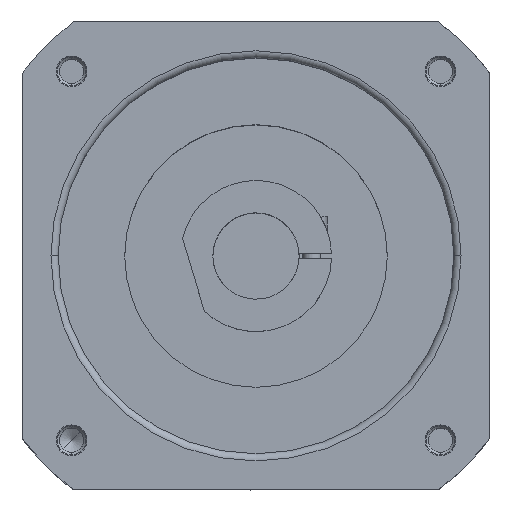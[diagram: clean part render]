
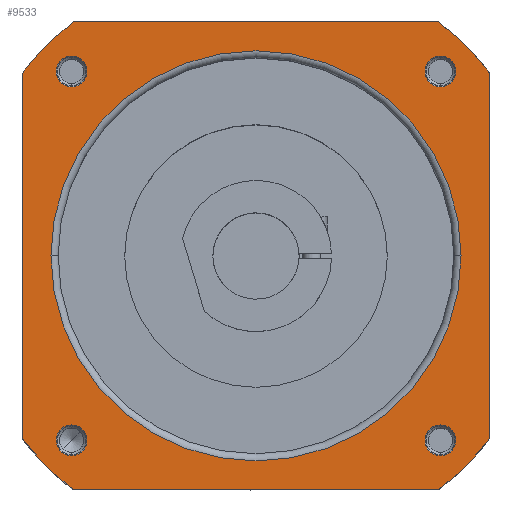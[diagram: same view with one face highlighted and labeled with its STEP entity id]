
A CAD part, top view. The second image highlights one B-rep face of the part: STEP entity #9533.
In plain terms, the highlighted planar face has unit normal (0, 0, 1) as drawn and (0, 1, 0) by its records, which use the part's own axes.
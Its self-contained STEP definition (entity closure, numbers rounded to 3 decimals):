
#8353=CARTESIAN_POINT('',(0.,66.,0.));
#8354=DIRECTION('',(0.,1.,0.));
#8355=DIRECTION('',(0.788,0.,-0.616));
#8356=AXIS2_PLACEMENT_3D('',#8353,#8354,#8355);
#8358=DIRECTION('',(0.,0.,-1.));
#8359=VECTOR('',#8358,101.612);
#8360=CARTESIAN_POINT('',(65.,66.,50.806));
#8361=LINE('',#8360,#8359);
#8362=CARTESIAN_POINT('',(0.,66.,0.));
#8363=DIRECTION('',(0.,1.,0.));
#8364=DIRECTION('',(0.616,0.,0.788));
#8365=AXIS2_PLACEMENT_3D('',#8362,#8363,#8364);
#8367=DIRECTION('',(1.,0.,0.));
#8368=VECTOR('',#8367,101.612);
#8369=CARTESIAN_POINT('',(-50.806,66.,65.));
#8370=LINE('',#8369,#8368);
#8371=CARTESIAN_POINT('',(0.,66.,0.));
#8372=DIRECTION('',(0.,1.,0.));
#8373=DIRECTION('',(-0.788,0.,0.616));
#8374=AXIS2_PLACEMENT_3D('',#8371,#8372,#8373);
#8376=DIRECTION('',(0.,0.,1.));
#8377=VECTOR('',#8376,101.612);
#8378=CARTESIAN_POINT('',(-65.,66.,-50.806));
#8379=LINE('',#8378,#8377);
#8380=CARTESIAN_POINT('',(0.,66.,0.));
#8381=DIRECTION('',(0.,1.,0.));
#8382=DIRECTION('',(-0.616,0.,-0.788));
#8383=AXIS2_PLACEMENT_3D('',#8380,#8381,#8382);
#8385=DIRECTION('',(-1.,0.,0.));
#8386=VECTOR('',#8385,101.612);
#8387=CARTESIAN_POINT('',(50.806,66.,-65.));
#8388=LINE('',#8387,#8386);
#8389=CARTESIAN_POINT('',(-51.265,66.,51.265));
#8390=DIRECTION('',(0.,-1.,0.));
#8391=DIRECTION('',(1.,0.,0.));
#8392=AXIS2_PLACEMENT_3D('',#8389,#8390,#8391);
#8399=CARTESIAN_POINT('',(-51.265,66.,51.265));
#8400=DIRECTION('',(0.,-1.,0.));
#8401=DIRECTION('',(-1.,0.,0.));
#8402=AXIS2_PLACEMENT_3D('',#8399,#8400,#8401);
#8435=CARTESIAN_POINT('',(-51.265,66.,-51.265));
#8436=DIRECTION('',(0.,-1.,0.));
#8437=DIRECTION('',(1.,0.,0.));
#8438=AXIS2_PLACEMENT_3D('',#8435,#8436,#8437);
#8445=CARTESIAN_POINT('',(-51.265,66.,-51.265));
#8446=DIRECTION('',(0.,-1.,0.));
#8447=DIRECTION('',(-1.,0.,0.));
#8448=AXIS2_PLACEMENT_3D('',#8445,#8446,#8447);
#8481=CARTESIAN_POINT('',(51.265,66.,-51.265));
#8482=DIRECTION('',(0.,-1.,0.));
#8483=DIRECTION('',(1.,0.,0.));
#8484=AXIS2_PLACEMENT_3D('',#8481,#8482,#8483);
#8491=CARTESIAN_POINT('',(51.265,66.,-51.265));
#8492=DIRECTION('',(0.,-1.,0.));
#8493=DIRECTION('',(-1.,0.,0.));
#8494=AXIS2_PLACEMENT_3D('',#8491,#8492,#8493);
#8852=CARTESIAN_POINT('',(51.265,66.,51.265));
#8853=DIRECTION('',(0.,-1.,0.));
#8854=DIRECTION('',(1.,0.,0.));
#8855=AXIS2_PLACEMENT_3D('',#8852,#8853,#8854);
#8862=CARTESIAN_POINT('',(51.265,66.,51.265));
#8863=DIRECTION('',(0.,-1.,0.));
#8864=DIRECTION('',(-1.,0.,0.));
#8865=AXIS2_PLACEMENT_3D('',#8862,#8863,#8864);
#8916=CARTESIAN_POINT('',(0.,66.,0.));
#8917=DIRECTION('',(0.,-1.,0.));
#8918=DIRECTION('',(0.,0.,1.));
#8919=AXIS2_PLACEMENT_3D('',#8916,#8917,#8918);
#8931=CARTESIAN_POINT('',(0.,66.,0.));
#8932=DIRECTION('',(0.,-1.,0.));
#8933=DIRECTION('',(0.,0.,-1.));
#8934=AXIS2_PLACEMENT_3D('',#8931,#8932,#8933);
#9181=CARTESIAN_POINT('',(-65.,66.,-50.806));
#9183=VERTEX_POINT('',#9181);
#9185=CARTESIAN_POINT('',(-65.,66.,50.806));
#9187=VERTEX_POINT('',#9185);
#9189=CARTESIAN_POINT('',(-50.806,66.,65.));
#9191=VERTEX_POINT('',#9189);
#9193=CARTESIAN_POINT('',(50.806,66.,65.));
#9195=VERTEX_POINT('',#9193);
#9197=CARTESIAN_POINT('',(65.,66.,-50.806));
#9199=VERTEX_POINT('',#9197);
#9201=CARTESIAN_POINT('',(65.,66.,50.806));
#9203=VERTEX_POINT('',#9201);
#9205=CARTESIAN_POINT('',(50.806,66.,-65.));
#9207=VERTEX_POINT('',#9205);
#9209=CARTESIAN_POINT('',(-50.806,66.,-65.));
#9211=VERTEX_POINT('',#9209);
#9242=CARTESIAN_POINT('',(55.54,66.,51.265));
#9243=CARTESIAN_POINT('',(46.99,66.,51.265));
#9244=VERTEX_POINT('',#9242);
#9245=VERTEX_POINT('',#9243);
#9250=CARTESIAN_POINT('',(-46.99,66.,51.265));
#9251=CARTESIAN_POINT('',(-55.54,66.,51.265));
#9252=VERTEX_POINT('',#9250);
#9253=VERTEX_POINT('',#9251);
#9258=CARTESIAN_POINT('',(-46.99,66.,-51.265));
#9259=CARTESIAN_POINT('',(-55.54,66.,-51.265));
#9260=VERTEX_POINT('',#9258);
#9261=VERTEX_POINT('',#9259);
#9266=CARTESIAN_POINT('',(55.54,66.,-51.265));
#9267=CARTESIAN_POINT('',(46.99,66.,-51.265));
#9268=VERTEX_POINT('',#9266);
#9269=VERTEX_POINT('',#9267);
#9306=CARTESIAN_POINT('',(0.,66.,57.));
#9307=CARTESIAN_POINT('',(0.,66.,-57.));
#9308=VERTEX_POINT('',#9306);
#9309=VERTEX_POINT('',#9307);
#9483=CARTESIAN_POINT('',(0.,66.,0.));
#9484=DIRECTION('',(0.,-1.,0.));
#9485=DIRECTION('',(-1.,0.,0.));
#9486=AXIS2_PLACEMENT_3D('',#9483,#9484,#9485);
#9487=PLANE('',#9486);
#9488=ORIENTED_EDGE('',*,*,#9454,.F.);
#9490=ORIENTED_EDGE('',*,*,#9489,.F.);
#9492=ORIENTED_EDGE('',*,*,#9491,.F.);
#9494=ORIENTED_EDGE('',*,*,#9493,.F.);
#9496=ORIENTED_EDGE('',*,*,#9495,.F.);
#9497=ORIENTED_EDGE('',*,*,#9468,.F.);
#9498=ORIENTED_EDGE('',*,*,#9442,.F.);
#9500=ORIENTED_EDGE('',*,*,#9499,.F.);
#9501=EDGE_LOOP('',(#9488,#9490,#9492,#9494,#9496,#9497,#9498,#9500));
#9502=FACE_OUTER_BOUND('',#9501,.F.);
#9504=ORIENTED_EDGE('',*,*,#9503,.F.);
#9506=ORIENTED_EDGE('',*,*,#9505,.F.);
#9507=EDGE_LOOP('',(#9504,#9506));
#9508=FACE_BOUND('',#9507,.F.);
#9510=ORIENTED_EDGE('',*,*,#9509,.F.);
#9512=ORIENTED_EDGE('',*,*,#9511,.F.);
#9513=EDGE_LOOP('',(#9510,#9512));
#9514=FACE_BOUND('',#9513,.F.);
#9516=ORIENTED_EDGE('',*,*,#9515,.F.);
#9518=ORIENTED_EDGE('',*,*,#9517,.F.);
#9519=EDGE_LOOP('',(#9516,#9518));
#9520=FACE_BOUND('',#9519,.F.);
#9522=ORIENTED_EDGE('',*,*,#9521,.F.);
#9524=ORIENTED_EDGE('',*,*,#9523,.F.);
#9525=EDGE_LOOP('',(#9522,#9524));
#9526=FACE_BOUND('',#9525,.F.);
#9528=ORIENTED_EDGE('',*,*,#9527,.F.);
#9530=ORIENTED_EDGE('',*,*,#9529,.F.);
#9531=EDGE_LOOP('',(#9528,#9530));
#9532=FACE_BOUND('',#9531,.F.);
#9533=ADVANCED_FACE('',(#9502,#9508,#9514,#9520,#9526,#9532),#9487,.F.);
#8357=CIRCLE('',#8356,82.5);
#8366=CIRCLE('',#8365,82.5);
#8375=CIRCLE('',#8374,82.5);
#8384=CIRCLE('',#8383,82.5);
#8393=CIRCLE('',#8392,4.275);
#8403=CIRCLE('',#8402,4.275);
#8439=CIRCLE('',#8438,4.275);
#8449=CIRCLE('',#8448,4.275);
#8485=CIRCLE('',#8484,4.275);
#8495=CIRCLE('',#8494,4.275);
#8856=CIRCLE('',#8855,4.275);
#8866=CIRCLE('',#8865,4.275);
#8920=CIRCLE('',#8919,57.);
#8935=CIRCLE('',#8934,57.);
#9442=EDGE_CURVE('',#9211,#9183,#8384,.T.);
#9454=EDGE_CURVE('',#9199,#9207,#8357,.T.);
#9468=EDGE_CURVE('',#9183,#9187,#8379,.T.);
#9489=EDGE_CURVE('',#9203,#9199,#8361,.T.);
#9491=EDGE_CURVE('',#9195,#9203,#8366,.T.);
#9493=EDGE_CURVE('',#9191,#9195,#8370,.T.);
#9495=EDGE_CURVE('',#9187,#9191,#8375,.T.);
#9499=EDGE_CURVE('',#9207,#9211,#8388,.T.);
#9503=EDGE_CURVE('',#9260,#9261,#8439,.T.);
#9505=EDGE_CURVE('',#9261,#9260,#8449,.T.);
#9509=EDGE_CURVE('',#9268,#9269,#8485,.T.);
#9511=EDGE_CURVE('',#9269,#9268,#8495,.T.);
#9515=EDGE_CURVE('',#9252,#9253,#8393,.T.);
#9517=EDGE_CURVE('',#9253,#9252,#8403,.T.);
#9521=EDGE_CURVE('',#9244,#9245,#8856,.T.);
#9523=EDGE_CURVE('',#9245,#9244,#8866,.T.);
#9527=EDGE_CURVE('',#9308,#9309,#8920,.T.);
#9529=EDGE_CURVE('',#9309,#9308,#8935,.T.);
